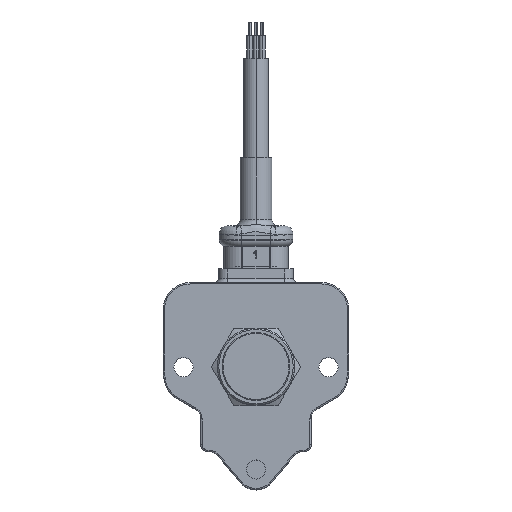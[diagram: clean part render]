
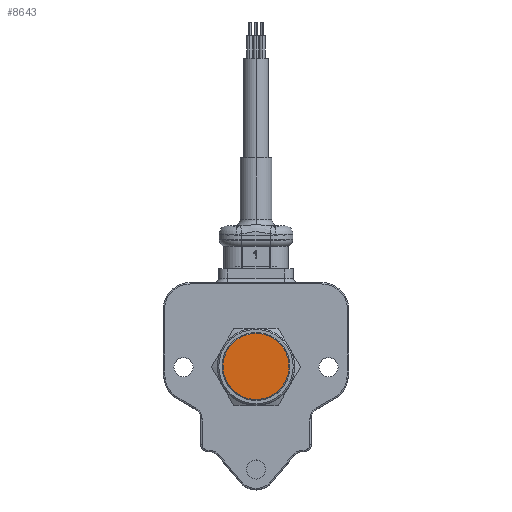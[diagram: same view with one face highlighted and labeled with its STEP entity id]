
A CAD part, top view. The second image highlights one B-rep face of the part: STEP entity #8643.
In plain terms, the highlighted planar face has unit normal (0, 0, 1).
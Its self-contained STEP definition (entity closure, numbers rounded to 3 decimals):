
#387 = EDGE_CURVE ( 'NONE', #7006, #4861, #8110, .T. ) ;
#961 = AXIS2_PLACEMENT_3D ( 'NONE', #1890, #12088, #2915 ) ;
#1457 = DIRECTION ( 'NONE',  ( 0., 0., 1. ) ) ;
#1890 = CARTESIAN_POINT ( 'NONE',  ( 0., 0., 5. ) ) ;
#2303 = EDGE_CURVE ( 'NONE', #4861, #7006, #4540, .T. ) ;
#2915 = DIRECTION ( 'NONE',  ( 1., 0., 0. ) ) ;
#2957 = AXIS2_PLACEMENT_3D ( 'NONE', #12657, #1457, #6522 ) ;
#3894 = PLANE ( 'NONE',  #961 ) ;
#4540 = CIRCLE ( 'NONE', #2957, 7.3 ) ;
#4861 = VERTEX_POINT ( 'NONE', #5932 ) ;
#5600 = CARTESIAN_POINT ( 'NONE',  ( -7.3, 0., 5. ) ) ;
#5932 = CARTESIAN_POINT ( 'NONE',  ( 7.3, 0., 5. ) ) ;
#6016 = CARTESIAN_POINT ( 'NONE',  ( 0., 0., 5. ) ) ;
#6522 = DIRECTION ( 'NONE',  ( 1., 0., 0. ) ) ;
#7006 = VERTEX_POINT ( 'NONE', #5600 ) ;
#7894 = DIRECTION ( 'NONE',  ( 0., 0., 1. ) ) ;
#8110 = CIRCLE ( 'NONE', #12774, 7.3 ) ;
#8643 = ADVANCED_FACE ( 'NONE', ( #9296 ), #3894, .T. ) ;
#9296 = FACE_OUTER_BOUND ( 'NONE', #9995, .T. ) ;
#9995 = EDGE_LOOP ( 'NONE', ( #10889, #12339 ) ) ;
#10889 = ORIENTED_EDGE ( 'NONE', *, *, #387, .T. ) ;
#12088 = DIRECTION ( 'NONE',  ( 0., 0., 1. ) ) ;
#12339 = ORIENTED_EDGE ( 'NONE', *, *, #2303, .T. ) ;
#12657 = CARTESIAN_POINT ( 'NONE',  ( 0., 0., 5. ) ) ;
#12774 = AXIS2_PLACEMENT_3D ( 'NONE', #6016, #7894, #13100 ) ;
#13100 = DIRECTION ( 'NONE',  ( 1., 0., 0. ) ) ;
